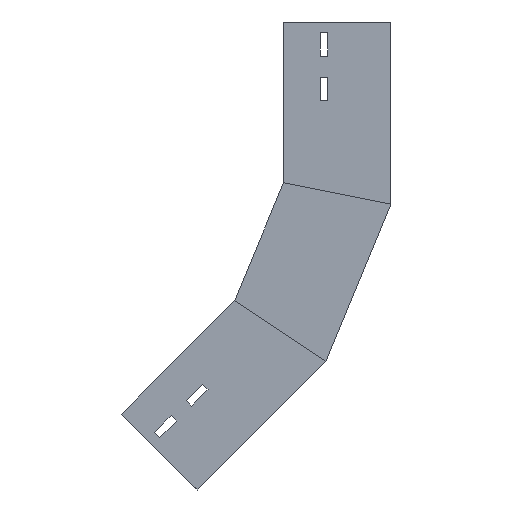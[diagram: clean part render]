
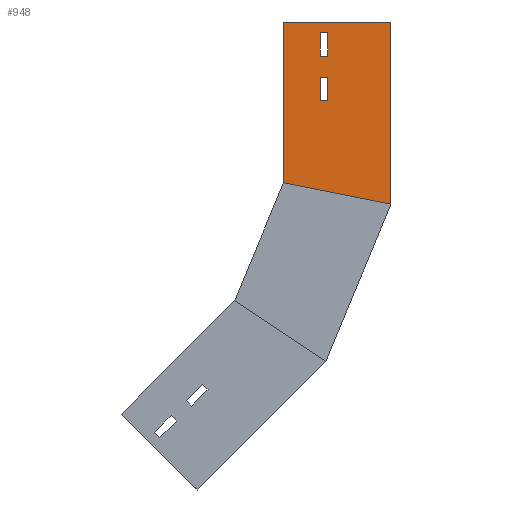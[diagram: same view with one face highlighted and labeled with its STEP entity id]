
A CAD part, left-side view. The second image highlights one B-rep face of the part: STEP entity #948.
In plain terms, the highlighted planar face has unit normal (-1, 0, 0) as drawn and (1, 0, 0) by its records, which use the part's own axes.
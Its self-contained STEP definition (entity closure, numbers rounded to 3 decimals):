
#7 = CARTESIAN_POINT ( 'NONE',  ( 0., 86.366, -298.856 ) ) ;
#25 = ORIENTED_EDGE ( 'NONE', *, *, #997, .T. ) ;
#30 = DIRECTION ( 'NONE',  ( 0., -0.707, 0.707 ) ) ;
#57 = VERTEX_POINT ( 'NONE', #1190 ) ;
#82 = VERTEX_POINT ( 'NONE', #1418 ) ;
#103 = CARTESIAN_POINT ( 'NONE',  ( 0., 180.581, -435.96 ) ) ;
#107 = EDGE_CURVE ( 'NONE', #1415, #245, #265, .T. ) ;
#115 = VERTEX_POINT ( 'NONE', #282 ) ;
#134 = DIRECTION ( 'NONE',  ( 0., 0.707, -0.707 ) ) ;
#141 = DIRECTION ( 'NONE',  ( 0., 0.707, -0.707 ) ) ;
#148 = VECTOR ( 'NONE', #1386, 1000. ) ;
#152 = EDGE_CURVE ( 'NONE', #115, #992, #1438, .T. ) ;
#157 = EDGE_CURVE ( 'NONE', #1002, #115, #642, .T. ) ;
#167 = CARTESIAN_POINT ( 'NONE',  ( 0., 204.739, -366.78 ) ) ;
#177 = VERTEX_POINT ( 'NONE', #426 ) ;
#182 = DIRECTION ( 'NONE',  ( 0., 0.707, 0.707 ) ) ;
#190 = CARTESIAN_POINT ( 'NONE',  ( 0., 220.295, -382.337 ) ) ;
#230 = ORIENTED_EDGE ( 'NONE', *, *, #1154, .F. ) ;
#237 = VERTEX_POINT ( 'NONE', #103 ) ;
#245 = VERTEX_POINT ( 'NONE', #801 ) ;
#250 = ORIENTED_EDGE ( 'NONE', *, *, #152, .F. ) ;
#253 = CARTESIAN_POINT ( 'NONE',  ( 0., 190.83, -352.872 ) ) ;
#263 = CARTESIAN_POINT ( 'NONE',  ( 0., 204.739, -366.78 ) ) ;
#265 = LINE ( 'NONE', #1430, #824 ) ;
#271 = DIRECTION ( 'NONE',  ( 0., -0.707, -0.707 ) ) ;
#282 = CARTESIAN_POINT ( 'NONE',  ( 0., 220.295, -382.337 ) ) ;
#293 = VECTOR ( 'NONE', #271, 1000. ) ;
#310 = EDGE_CURVE ( 'NONE', #1068, #57, #708, .T. ) ;
#327 = LINE ( 'NONE', #7, #1237 ) ;
#373 = ORIENTED_EDGE ( 'NONE', *, *, #107, .F. ) ;
#388 = PLANE ( 'NONE',  #1420 ) ;
#403 = CARTESIAN_POINT ( 'NONE',  ( 0., 220.295, -382.337 ) ) ;
#418 = LINE ( 'NONE', #514, #1346 ) ;
#426 = CARTESIAN_POINT ( 'NONE',  ( 0., 145.431, -259.389 ) ) ;
#451 = VECTOR ( 'NONE', #539, 1000. ) ;
#474 = FACE_BOUND ( 'NONE', #1352, .T. ) ;
#507 = CARTESIAN_POINT ( 'NONE',  ( 0., 215.346, -387.287 ) ) ;
#514 = CARTESIAN_POINT ( 'NONE',  ( 0., 180.581, -435.96 ) ) ;
#539 = DIRECTION ( 'NONE',  ( 0., 0.707, 0.707 ) ) ;
#550 = EDGE_CURVE ( 'NONE', #237, #1179, #418, .T. ) ;
#558 = LINE ( 'NONE', #1476, #655 ) ;
#632 = VECTOR ( 'NONE', #828, 1000. ) ;
#642 = LINE ( 'NONE', #190, #451 ) ;
#651 = VECTOR ( 'NONE', #141, 1000. ) ;
#655 = VECTOR ( 'NONE', #800, 1000. ) ;
#664 = CARTESIAN_POINT ( 'NONE',  ( 0., 170.324, -342.265 ) ) ;
#694 = CARTESIAN_POINT ( 'NONE',  ( 0., 215.346, -387.287 ) ) ;
#699 = VECTOR ( 'NONE', #722, 1000. ) ;
#702 = ORIENTED_EDGE ( 'NONE', *, *, #550, .T. ) ;
#707 = CARTESIAN_POINT ( 'NONE',  ( 0., 251.291, -365.25 ) ) ;
#708 = LINE ( 'NONE', #1411, #1288 ) ;
#710 = CARTESIAN_POINT ( 'NONE',  ( 0., 60.655, -316.035 ) ) ;
#722 = DIRECTION ( 'NONE',  ( 0., -0.707, -0.707 ) ) ;
#780 = EDGE_CURVE ( 'NONE', #177, #82, #327, .T. ) ;
#798 = ORIENTED_EDGE ( 'NONE', *, *, #1424, .F. ) ;
#800 = DIRECTION ( 'NONE',  ( 0., 0.707, -0.707 ) ) ;
#801 = CARTESIAN_POINT ( 'NONE',  ( 0., 175.274, -337.315 ) ) ;
#810 = VECTOR ( 'NONE', #1212, 1000. ) ;
#824 = VECTOR ( 'NONE', #30, 1000. ) ;
#828 = DIRECTION ( 'NONE',  ( 0., 0.707, -0.707 ) ) ;
#841 = CARTESIAN_POINT ( 'NONE',  ( 0., 190.83, -352.872 ) ) ;
#846 = DIRECTION ( 'NONE',  ( -1., 0., 0. ) ) ;
#888 = ORIENTED_EDGE ( 'NONE', *, *, #1045, .F. ) ;
#894 = CARTESIAN_POINT ( 'NONE',  ( 0., 199.789, -371.73 ) ) ;
#924 = LINE ( 'NONE', #694, #632 ) ;
#948 = ADVANCED_FACE ( 'NONE', ( #1422, #474, #1169 ), #388, .F. ) ;
#992 = VERTEX_POINT ( 'NONE', #167 ) ;
#997 = EDGE_CURVE ( 'NONE', #82, #237, #1192, .T. ) ;
#1002 = VERTEX_POINT ( 'NONE', #507 ) ;
#1022 = EDGE_LOOP ( 'NONE', ( #250, #1392, #230, #1306 ) ) ;
#1037 = DIRECTION ( 'NONE',  ( 0., -0.831, -0.556 ) ) ;
#1045 = EDGE_CURVE ( 'NONE', #177, #1179, #558, .T. ) ;
#1068 = VERTEX_POINT ( 'NONE', #664 ) ;
#1097 = LINE ( 'NONE', #1299, #293 ) ;
#1123 = ORIENTED_EDGE ( 'NONE', *, *, #1171, .F. ) ;
#1154 = EDGE_CURVE ( 'NONE', #1278, #1002, #924, .T. ) ;
#1169 = FACE_OUTER_BOUND ( 'NONE', #1405, .T. ) ;
#1171 = EDGE_CURVE ( 'NONE', #57, #1415, #1281, .T. ) ;
#1179 = VERTEX_POINT ( 'NONE', #707 ) ;
#1190 = CARTESIAN_POINT ( 'NONE',  ( 0., 185.88, -357.821 ) ) ;
#1192 = LINE ( 'NONE', #710, #651 ) ;
#1212 = DIRECTION ( 'NONE',  ( 0., -0.707, 0.707 ) ) ;
#1228 = ORIENTED_EDGE ( 'NONE', *, *, #780, .T. ) ;
#1237 = VECTOR ( 'NONE', #1037, 1000. ) ;
#1278 = VERTEX_POINT ( 'NONE', #894 ) ;
#1281 = LINE ( 'NONE', #253, #148 ) ;
#1288 = VECTOR ( 'NONE', #134, 1000. ) ;
#1290 = LINE ( 'NONE', #263, #699 ) ;
#1299 = CARTESIAN_POINT ( 'NONE',  ( 0., 175.274, -337.315 ) ) ;
#1305 = DIRECTION ( 'NONE',  ( 0., 0., 1. ) ) ;
#1306 = ORIENTED_EDGE ( 'NONE', *, *, #1469, .F. ) ;
#1346 = VECTOR ( 'NONE', #182, 1000. ) ;
#1352 = EDGE_LOOP ( 'NONE', ( #373, #1123, #1482, #798 ) ) ;
#1386 = DIRECTION ( 'NONE',  ( 0., 0.707, 0.707 ) ) ;
#1392 = ORIENTED_EDGE ( 'NONE', *, *, #157, .F. ) ;
#1405 = EDGE_LOOP ( 'NONE', ( #1228, #25, #702, #888 ) ) ;
#1411 = CARTESIAN_POINT ( 'NONE',  ( 0., 185.88, -357.821 ) ) ;
#1412 = CARTESIAN_POINT ( 'NONE',  ( 0., 60.655, -316.035 ) ) ;
#1415 = VERTEX_POINT ( 'NONE', #841 ) ;
#1418 = CARTESIAN_POINT ( 'NONE',  ( 0., 60.655, -316.035 ) ) ;
#1420 = AXIS2_PLACEMENT_3D ( 'NONE', #1412, #846, #1305 ) ;
#1422 = FACE_BOUND ( 'NONE', #1022, .T. ) ;
#1424 = EDGE_CURVE ( 'NONE', #245, #1068, #1097, .T. ) ;
#1430 = CARTESIAN_POINT ( 'NONE',  ( 0., 190.83, -352.872 ) ) ;
#1438 = LINE ( 'NONE', #403, #810 ) ;
#1469 = EDGE_CURVE ( 'NONE', #992, #1278, #1290, .T. ) ;
#1476 = CARTESIAN_POINT ( 'NONE',  ( 0., 131.366, -245.324 ) ) ;
#1482 = ORIENTED_EDGE ( 'NONE', *, *, #310, .F. ) ;
